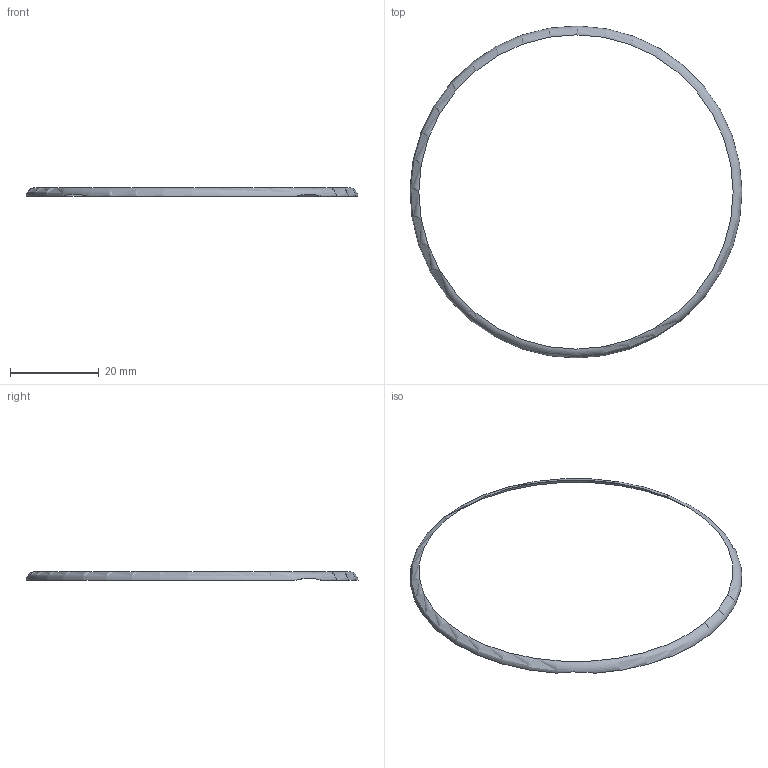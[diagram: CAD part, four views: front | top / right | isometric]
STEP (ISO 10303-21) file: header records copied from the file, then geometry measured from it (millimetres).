
FILE_DESCRIPTION(('BRL-CAD focused geometric regression fixture'),'2;1');
FILE_NAME('ap214_doubly_periodic_chain','2026-07-24T00:00:00',('BRL-CAD'),('BRL-CAD'),'','','');
FILE_SCHEMA(('AUTOMOTIVE_DESIGN { 1 0 10303 214 3 1 1 1 }'));
Length unit declared in the file: millimetre
Products named in the file (1): ap214_doubly_periodic_chain
Bounding box: 74.99 x 75 x 2 mm (x, y, z)
Surface area: 720 mm2 (no closed solid volume)
Topology: 0 solids, 1 shells, 1 faces, 7 edges, 6 vertices
Faces by surface type: torus 1
Entity records: 72 total; most frequent: CARTESIAN_POINT 21, DIRECTION 8, VERTEX_POINT 5, EDGE_CURVE 5, ORIENTED_EDGE 5, AXIS2_PLACEMENT_3D 4, CIRCLE 3, B_SPLINE_CURVE_WITH_KNOTS 2
